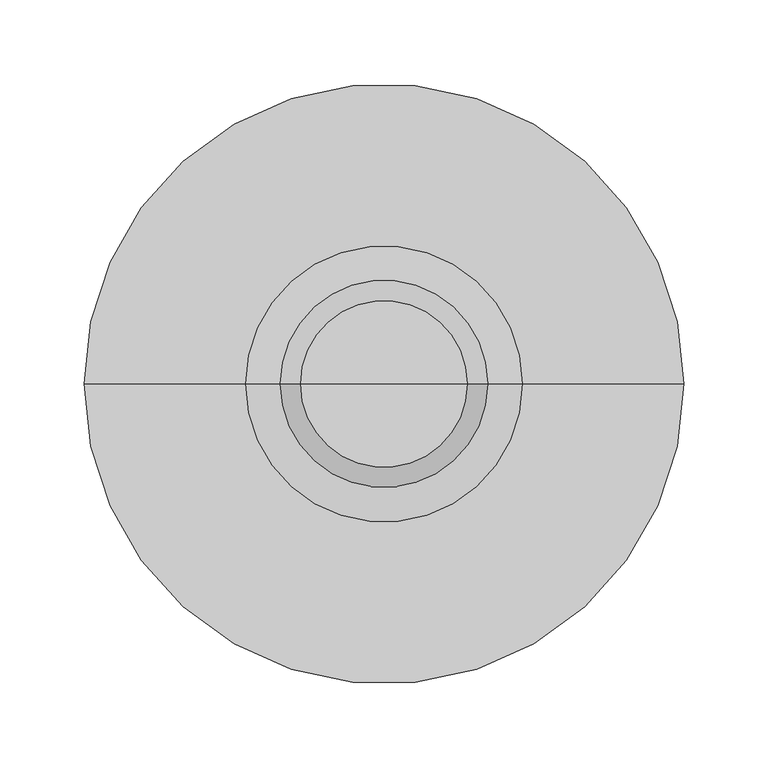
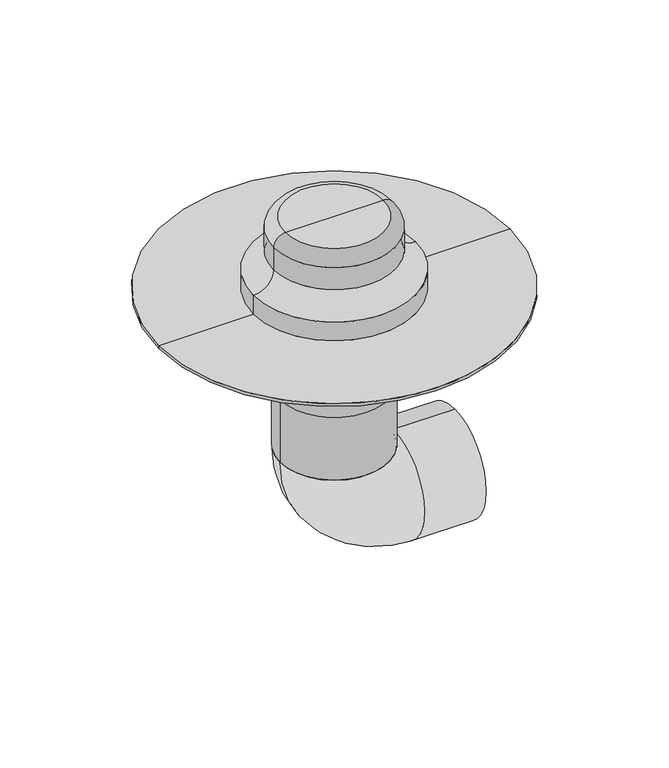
"""IFC4 building model written with IfcOpenShell, lengths in millimetres: flow terminal geometry, BIMLIB_Воронка_Кровельная_Fachmann_VMC : 110х165."""

import ifcopenshell
import ifcopenshell.guid

model = None  # the IFC model being written
_history = None  # IfcOwnerHistory: only IFC2X3 demands one
_inside = {}  # id of a spatial element -> (the spatial element, [elements in it])
_under = {}  # id of a project, library or spatial element -> (it, [spatial elements below it])
_declared = {}  # id of a project -> (the project, [libraries it declares])
_typed = {}  # id of a type object -> (the type object, [elements of that type])
_made_of = {}  # id of a material, layer set ... -> (it, [elements and type objects made of it])


def new_model(schema):
    """Start an empty IFC model of exactly this schema.

    Asked for "IFC4X3", IfcOpenShell would pick the latest addendum, in which some entities
    have other attributes; the version numbers below select the first issue.
    IFC2X3 requires an IfcOwnerHistory on every rooted entity: one is made here for all.
    """
    global model, _history
    if schema == "IFC4X3":
        model = ifcopenshell.file(schema_version=(4, 3, 0, 0))
    else:
        model = ifcopenshell.file(schema=schema)
    _inside.clear()
    _under.clear()
    _declared.clear()
    _typed.clear()
    _made_of.clear()
    _history = None
    if model.schema == "IFC2X3":
        org = make("IfcOrganization", Name="unknown")
        user = make(
            "IfcPersonAndOrganization",
            ThePerson=make("IfcPerson", FamilyName="unknown"),
            TheOrganization=org,
        )
        app = make(
            "IfcApplication",
            ApplicationDeveloper=org,
            Version="unknown",
            ApplicationFullName="unknown",
            ApplicationIdentifier="unknown",
        )
        _history = make(
            "IfcOwnerHistory",
            OwningUser=user,
            OwningApplication=app,
            ChangeAction="ADDED",
            CreationDate=0,
        )
    return model


def make(cls, **values):
    """One entity of the class cls with the attributes given. An attribute that is None is left unset."""
    return model.create_entity(
        cls, **{name: value for name, value in values.items() if value is not None}
    )


def rooted(cls, **values):
    """An entity with a GlobalId (a new one), such as an element, a storey or a relation."""
    return make(cls, GlobalId=ifcopenshell.guid.new(), OwnerHistory=_history, **values)


def si_unit(unit_type, name, prefix=None):
    """IfcSIUnit, for example si_unit("LENGTHUNIT", "METRE", prefix="MILLI")."""
    return make("IfcSIUnit", UnitType=unit_type, Prefix=prefix, Name=name)


def assignment(units):
    """IfcUnitAssignment: the units of a project."""
    return None if units is None else make("IfcUnitAssignment", Units=units)


def point(xyz):
    """IfcCartesianPoint."""
    return None if xyz is None else make("IfcCartesianPoint", Coordinates=xyz)


def direction(xyz):
    """IfcDirection."""
    return None if xyz is None else make("IfcDirection", DirectionRatios=xyz)


def frame(location, z_axis=None, x_axis=None):
    """IfcAxis2Placement3D, a coordinate frame: its origin and axes. An axis left out is left unset."""
    return make(
        "IfcAxis2Placement3D",
        Location=point(location),
        Axis=direction(z_axis),
        RefDirection=direction(x_axis),
    )


def origin():
    """The frame at (0, 0, 0) with its axes left unset."""
    return frame((0.0, 0.0, 0.0))


def origin_with_axes():
    """The frame at (0, 0, 0) with the z axis (0, 0, 1) and the x axis (1, 0, 0) written out."""
    return frame((0.0, 0.0, 0.0), z_axis=(0.0, 0.0, 1.0), x_axis=(1.0, 0.0, 0.0))


def place(relative_to, where):
    """IfcLocalPlacement: puts the frame where relative to a parent placement (None: the world)."""
    return make(
        "IfcLocalPlacement", PlacementRelTo=relative_to, RelativePlacement=where
    )


def context(
    kind, dimensions, precision=None, world=None, true_north=None, identifier=None
):
    """IfcGeometricRepresentationContext, for example the 3D "Model" context."""
    return make(
        "IfcGeometricRepresentationContext",
        ContextIdentifier=identifier,
        ContextType=kind,
        CoordinateSpaceDimension=dimensions,
        Precision=precision,
        WorldCoordinateSystem=world,
        TrueNorth=true_north,
    )


def project(units=None, contexts=None):
    """IfcProject with its units and contexts."""
    return rooted(
        "IfcProject",
        Name="project",
        RepresentationContexts=contexts,
        UnitsInContext=assignment(units),
    )


def spatial(cls, under=None, at=None, **own):
    """A site, building, storey or space (cls), placed at a placement, below another one or the project."""
    s = rooted(cls, ObjectPlacement=at, **own)
    if under is not None:
        _under.setdefault(under.id(), (under, []))[1].append(s)
    return s


def polyline(points):
    """IfcPolyline through the points."""
    return make("IfcPolyline", Points=[point(p) for p in points])


def circle_curve(where, radius):
    """IfcCircle in the frame where."""
    return make("IfcCircle", Position=where, Radius=radius)


def ellipse_curve(where, semi_axis1, semi_axis2):
    """IfcEllipse in the frame where."""
    return make(
        "IfcEllipse", Position=where, SemiAxis1=semi_axis1, SemiAxis2=semi_axis2
    )


def trimmed(basis, trim1, trim2, sense, master):
    """IfcTrimmedCurve: the piece of a basis curve between two trims."""
    return make(
        "IfcTrimmedCurve",
        BasisCurve=basis,
        Trim1=trim1,
        Trim2=trim2,
        SenseAgreement=sense,
        MasterRepresentation=master,
    )


def shape(context_of_items, identifier, shape_type, items):
    """IfcShapeRepresentation: the items that make up one representation, for example the "Body"."""
    return make(
        "IfcShapeRepresentation",
        ContextOfItems=context_of_items,
        RepresentationIdentifier=identifier,
        RepresentationType=shape_type,
        Items=items,
    )


def source(mapping_origin, context_of_items, identifier, shape_type, items):
    """IfcRepresentationMap: a shape defined once, which mapped items show again and again."""
    return make(
        "IfcRepresentationMap",
        MappingOrigin=mapping_origin,
        MappedRepresentation=shape(context_of_items, identifier, shape_type, items),
    )


def transform(
    local_origin,
    x_axis=None,
    y_axis=None,
    z_axis=None,
    scale=None,
    scale2=None,
    scale3=None,
    uniform=True,
):
    """IfcCartesianTransformationOperator3D, or its non-uniform kind. x_axis, y_axis, z_axis: its Axis1, 2, 3."""
    if uniform:
        return make(
            "IfcCartesianTransformationOperator3D",
            Axis1=direction(x_axis),
            Axis2=direction(y_axis),
            LocalOrigin=point(local_origin),
            Scale=scale,
            Axis3=direction(z_axis),
        )
    return make(
        "IfcCartesianTransformationOperator3DnonUniform",
        Axis1=direction(x_axis),
        Axis2=direction(y_axis),
        LocalOrigin=point(local_origin),
        Scale=scale,
        Axis3=direction(z_axis),
        Scale2=scale2,
        Scale3=scale3,
    )


def mapped(mapping_source, mapping_target):
    """IfcMappedItem: shows the shape of a source again, moved by a transform."""
    return make(
        "IfcMappedItem", MappingSource=mapping_source, MappingTarget=mapping_target
    )


def made_of(thing, what):
    """Note that an element or type object is made of a material, layer set ...; save() writes the relation."""
    if what is not None:
        _made_of.setdefault(what.id(), (what, []))[1].append(thing)
    return thing


def element(
    cls,
    number,
    at=None,
    inside=None,
    cuts=None,
    type_object=None,
    material=None,
    context=None,
    identifier="Body",
    shape_type=None,
    held_by="IfcProductDefinitionShape",
    body=None,
    shapes=None,
    **own,
):
    """One element of the class cls, such as IfcWall. Its Tag is "e" and its number.

    at: its placement. inside: the storey or other place that contains it. cuts: it is an
    opening in that element (IfcRelVoidsElement). A single representation is given by context,
    identifier, shape_type and body (its items); several are given by shapes. held_by: the class
    of the entity that holds the representations. save() writes the other relations.
    """
    e = rooted(cls, Tag="e%d" % number, ObjectPlacement=at, **own)
    if body is not None:
        shapes = [shape(context, identifier, shape_type, body)]
    if shapes is not None:
        e.Representation = make(held_by, Representations=shapes)
    if inside is not None:
        _inside.setdefault(inside.id(), (inside, []))[1].append(e)
    if cuts is not None:
        rooted(
            "IfcRelVoidsElement", RelatingBuildingElement=cuts, RelatedOpeningElement=e
        )
    if type_object is not None:
        _typed.setdefault(type_object.id(), (type_object, []))[1].append(e)
    return made_of(e, material)


def aggregate(whole, parts):
    """IfcRelAggregates: a whole, such as a stair, and the parts it consists of."""
    return rooted("IfcRelAggregates", RelatingObject=whole, RelatedObjects=parts)


def save(model, path):
    """Write the relations noted so far, then the file.

    IfcRelAggregates (storeys below a building ...), IfcRelContainedInSpatialStructure (elements
    in a storey), IfcRelDefinesByType, IfcRelAssociatesMaterial and IfcRelDeclares: one each for
    every whole, place, type object, material and project.
    """
    for whole, parts in _under.values():
        aggregate(whole, parts)
    for where, things in _inside.values():
        rooted(
            "IfcRelContainedInSpatialStructure",
            RelatedElements=things,
            RelatingStructure=where,
        )
    for kind, things in _typed.values():
        rooted("IfcRelDefinesByType", RelatedObjects=things, RelatingType=kind)
    for what, things in _made_of.values():
        rooted("IfcRelAssociatesMaterial", RelatedObjects=things, RelatingMaterial=what)
    for by, libraries in _declared.values():
        rooted("IfcRelDeclares", RelatingContext=by, RelatedDefinitions=libraries)
    model.write(path)


def plane_surface(at):
    """IfcPlane: the flat surface through the origin of the frame at, square to its z axis."""
    return make("IfcPlane", Position=at)


def cylinder_surface(at, radius):
    """IfcCylindricalSurface: all points at the distance radius from the z axis of the frame at."""
    return make("IfcCylindricalSurface", Position=at, Radius=radius)


def revolved_surface(curve, axis_point, axis_direction):
    """IfcSurfaceOfRevolution: the curve turned about the line through axis_point along axis_direction."""
    return make(
        "IfcSurfaceOfRevolution",
        SweptCurve=make("IfcArbitraryOpenProfileDef", ProfileType="CURVE", Curve=curve),
        AxisPosition=make("IfcAxis1Placement", Location=point(axis_point), Axis=direction(axis_direction)),
    )


def advanced_brep(points, edges, surfaces, faces):
    """IfcAdvancedBrep: a solid bounded by faces that lie on surfaces and meet in shared edges.

    An edge is (start, end): straight between two places in points (the first is 0);
    or (start, end, curve); or (start, end, curve, False) where it runs against its curve.
    A face is (place in surfaces, loops), or (place, loops, False) where it looks against
    its surface's normal. A loop lists edges by number (the first is 1), with a minus sign
    where the edge is run from its end to its start. The first loop is the outer one.
    """
    corners = [point(p) for p in points]
    vertices = [make("IfcVertexPoint", VertexGeometry=c) for c in corners]
    made = []
    for start, end, *more in edges:
        made.append(
            make(
                "IfcEdgeCurve",
                EdgeStart=vertices[start],
                EdgeEnd=vertices[end],
                EdgeGeometry=more[0] if more else make("IfcPolyline", Points=[corners[start], corners[end]]),
                SameSense=more[1] if len(more) > 1 else True,
            )
        )
    hull = []
    for where, loops, *sense in faces:
        bounds = []
        for j, loop in enumerate(loops):
            ring = [make("IfcOrientedEdge", EdgeElement=made[abs(k) - 1], Orientation=k > 0) for k in loop]
            bounds.append(
                make(
                    "IfcFaceOuterBound" if j == 0 else "IfcFaceBound",
                    Bound=make("IfcEdgeLoop", EdgeList=ring),
                    Orientation=True,
                )
            )
        hull.append(make("IfcAdvancedFace", Bounds=bounds, FaceSurface=surfaces[where], SameSense=sense[0] if sense else True))
    return make("IfcAdvancedBrep", Outer=make("IfcClosedShell", CfsFaces=hull))


def flow_terminal_ac1c9df8(model_context):
    return source(origin(), model_context, "Body", "AdvancedBrep", [
        advanced_brep(
        [(122.0, 0.0, -170.0), (122.0, 0.0, -280.0), (60.0, 0.0, -170.0), (60.0, 0.0, -280.0), (55.0, 0.0, -165.0), (-55.0, 0.0, -165.0)],
        [
            (0, 1, circle_curve(frame((122.0, 0.0, -225.0), z_axis=(1.0, 0.0, 0.0), x_axis=(0.0, 0.0, -1.0)), 55.0)),
            (1, 0, circle_curve(frame((122.0, 0.0, -225.0), z_axis=(1.0, 0.0, 0.0), x_axis=(0.0, 0.0, -1.0)), 55.0)),
            (0, 2),
            (2, 3, circle_curve(frame((60.0, 0.0, -225.0), z_axis=(1.0, 0.0, 0.0), x_axis=(0.0, 0.0, -1.0)), 55.0)),
            (3, 1),
            (3, 2, circle_curve(frame((60.0, 0.0, -225.0), z_axis=(1.0, 0.0, 0.0), x_axis=(0.0, 0.0, -1.0)), 55.0)),
            (4, 5, circle_curve(frame((0.0, 0.0, -165.0), z_axis=(0.0, 0.0, 1.0), x_axis=(-1.0, 0.0, 0.0)), 55.0)),
            (5, 4, circle_curve(frame((0.0, 0.0, -165.0), z_axis=(0.0, 0.0, 1.0), x_axis=(-1.0, 0.0, 0.0)), 55.0)),
            (5, 3, circle_curve(frame((60.0, 0.0, -165.0), z_axis=(0.0, -1.0, 0.0), x_axis=(0.0, 0.0, -1.0)), 115.0)),
            (2, 4, circle_curve(frame((60.0, 0.0, -165.0), z_axis=(0.0, 1.0, 0.0), x_axis=(0.0, 0.0, -1.0)), 5.0)),
        ],
        [
            plane_surface(frame((122.0, 0.0, -225.0), z_axis=(1.0, 0.0, 0.0), x_axis=(0.0, -1.0, 0.0))),
            cylinder_surface(frame((122.0, 0.0, -225.0), z_axis=(1.0, 0.0, 0.0), x_axis=(0.0, 0.0, -1.0)), 55.0),
            plane_surface(frame((0.0, 0.0, -165.0), z_axis=(0.0, 0.0, 1.0), x_axis=(0.0, -1.0, 0.0))),
            revolved_surface(trimmed(ellipse_curve(frame((60.0, 0.0, -225.0), z_axis=(1.0, 0.0, 0.0), x_axis=(0.0, 0.0, -1.0)), 55.0, 55.0), [point((60.0, 0.0, -170.0))], [point((60.0, 0.0, -280.0))], True, "CARTESIAN"), (60.0, 0.0, -165.0), (0.0, 1.0, 0.0)),
            revolved_surface(trimmed(ellipse_curve(frame((60.0, 0.0, -225.0), z_axis=(1.0, 0.0, 0.0), x_axis=(0.0, 0.0, -1.0)), 55.0, 55.0), [point((60.0, 0.0, -280.0))], [point((60.0, 0.0, -170.0))], True, "CARTESIAN"), (60.0, 0.0, -165.0), (0.0, 1.0, 0.0)),
        ],
        [
            (0, [[1, 2]]),
            (1, [[-1, 3, 4, 5]]),
            (1, [[-2, -5, 6, -3]]),
            (2, [[7, 8]]),
            (3, [[9, -4, 10, -8]]),
            (4, [[-10, -6, -9, -7]]),
        ],
    ),
        advanced_brep(
        [(55.0, 0.0, -165.0), (-55.0, 0.0, -165.0), (-55.0, 0.0, -98.0), (55.0, 0.0, -98.0), (-113.0, 0.0, -9.0), (113.0, 0.0, -9.0), (113.0, 0.0, -32.0), (-113.0, 0.0, -32.0), (0.0, 0.0, 0.0), (138.0, 0.0, 0.0), (-138.0, 0.0, 0.0), (-90.0, 0.0, -32.0), (90.0, 0.0, -32.0), (90.0, 0.0, -40.0), (-90.0, 0.0, -40.0)],
        [
            (0, 1, circle_curve(frame((0.0, 0.0, -165.0), z_axis=(0.0, 0.0, -1.0), x_axis=(-1.0, 0.0, 0.0)), 55.0)),
            (1, 0, circle_curve(frame((0.0, 0.0, -165.0), z_axis=(0.0, 0.0, -1.0), x_axis=(-1.0, 0.0, 0.0)), 55.0)),
            (1, 2),
            (2, 3, circle_curve(frame((0.0, 0.0, -98.0), z_axis=(0.0, 0.0, -1.0), x_axis=(-1.0, 0.0, 0.0)), 55.0)),
            (3, 0),
            (3, 2, circle_curve(frame((0.0, 0.0, -98.0), z_axis=(0.0, 0.0, -1.0), x_axis=(-1.0, 0.0, 0.0)), 55.0)),
            (4, 5, circle_curve(frame((0.0, 0.0, -9.0), z_axis=(0.0, 0.0, -1.0), x_axis=(1.0, 0.0, 0.0)), 113.0)),
            (5, 6),
            (6, 7, circle_curve(frame((0.0, 0.0, -32.0), z_axis=(0.0, 0.0, 1.0), x_axis=(1.0, 0.0, 0.0)), 113.0)),
            (7, 4),
            (5, 4, circle_curve(frame((0.0, 0.0, -9.0), z_axis=(0.0, 0.0, -1.0), x_axis=(1.0, 0.0, 0.0)), 113.0)),
            (7, 6, circle_curve(frame((0.0, 0.0, -32.0), z_axis=(0.0, 0.0, 1.0), x_axis=(1.0, 0.0, 0.0)), 113.0)),
            (8, 9),
            (9, 10, circle_curve(origin_with_axes(), 138.0)),
            (10, 8),
            (10, 9, circle_curve(origin_with_axes(), 138.0)),
            (4, 10),
            (9, 5),
            (11, 12, circle_curve(frame((0.0, 0.0, -32.0), z_axis=(0.0, 0.0, -1.0), x_axis=(1.0, 0.0, 0.0)), 90.0)),
            (12, 13),
            (13, 14, circle_curve(frame((0.0, 0.0, -40.0), z_axis=(0.0, 0.0, 1.0), x_axis=(1.0, 0.0, 0.0)), 90.0)),
            (14, 11),
            (12, 11, circle_curve(frame((0.0, 0.0, -32.0), z_axis=(0.0, 0.0, -1.0), x_axis=(1.0, 0.0, 0.0)), 90.0)),
            (14, 13, circle_curve(frame((0.0, 0.0, -40.0), z_axis=(0.0, 0.0, 1.0), x_axis=(1.0, 0.0, 0.0)), 90.0)),
            (6, 12),
            (11, 7),
            (13, 3),
            (2, 14),
        ],
        [
            plane_surface(frame((-55.0, 0.0, -165.0), z_axis=(0.0, 0.0, -1.0), x_axis=(0.0, 1.0, 0.0))),
            cylinder_surface(frame((0.0, 0.0, -165.0), z_axis=(0.0, 0.0, 1.0), x_axis=(-1.0, 0.0, 0.0)), 55.0),
            cylinder_surface(frame((0.0, 0.0, 159.0), z_axis=(0.0, 0.0, 1.0), x_axis=(1.0, 0.0, 0.0)), 113.0),
            plane_surface(origin_with_axes()),
            revolved_surface(polyline([(113.0, 0.0, -9.0), (138.0, 0.0, 0.0)]), (0.0, 0.0, 159.0), (0.0, 0.0, 1.0)),
            cylinder_surface(frame((0.0, 0.0, 159.0), z_axis=(0.0, 0.0, 1.0), x_axis=(1.0, 0.0, 0.0)), 90.0),
            plane_surface(frame((0.0, 0.0, -32.0), z_axis=(0.0, 0.0, -1.0), x_axis=(1.0, 0.0, 0.0))),
            revolved_surface(polyline([(55.0, 0.0, -98.0), (90.0, 0.0, -40.0)]), (0.0, 0.0, 159.0), (0.0, 0.0, 1.0)),
        ],
        [
            (0, [[1, 2]]),
            (1, [[-2, 3, 4, 5]]),
            (1, [[-1, -5, 6, -3]]),
            (2, [[7, 8, 9, 10]]),
            (2, [[-8, 11, -10, 12]]),
            (3, [[13, 14, 15]]),
            (3, [[-13, -15, 16]]),
            (4, [[-7, 17, -14, 18]]),
            (4, [[-11, -18, -16, -17]]),
            (5, [[19, 20, 21, 22]]),
            (5, [[-20, 23, -22, 24]]),
            (6, [[-9, 25, -19, 26]]),
            (6, [[-12, -26, -23, -25]]),
            (7, [[-21, 27, -4, 28]]),
            (7, [[-24, -28, -6, -27]]),
        ],
    ),
        advanced_brep(
        [(0.0, 0.0, 79.0), (49.5, 0.0, 79.0), (-49.5, 0.0, 79.0), (-178.0, 0.0, 0.0), (178.0, 0.0, 0.0), (0.0, 0.0, 0.0), (-178.0, 0.0, 3.0), (178.0, 0.0, 3.0), (-82.0, 0.0, 3.0), (82.0, 0.0, 3.0), (-61.5, 0.0, 67.0), (61.5, 0.0, 67.0), (61.5, 0.0, 43.5), (-61.5, 0.0, 43.5), (-82.0, 0.0, 23.0), (82.0, 0.0, 23.0)],
        [
            (0, 1),
            (1, 2, circle_curve(frame((0.0, 0.0, 79.0), z_axis=(0.0, 0.0, 1.0), x_axis=(1.0, 0.0, 0.0)), 49.5)),
            (2, 0),
            (2, 1, circle_curve(frame((0.0, 0.0, 79.0), z_axis=(0.0, 0.0, 1.0), x_axis=(1.0, 0.0, 0.0)), 49.5)),
            (3, 4, circle_curve(frame((0.0, 0.0, 0.0), z_axis=(0.0, 0.0, -1.0), x_axis=(1.0, 0.0, 0.0)), 178.0)),
            (4, 5),
            (5, 3),
            (4, 3, circle_curve(frame((0.0, 0.0, 0.0), z_axis=(0.0, 0.0, -1.0), x_axis=(1.0, 0.0, 0.0)), 178.0)),
            (6, 7, circle_curve(frame((0.0, 0.0, 3.0), z_axis=(0.0, 0.0, -1.0), x_axis=(1.0, 0.0, 0.0)), 178.0)),
            (7, 4),
            (3, 6),
            (7, 6, circle_curve(frame((0.0, 0.0, 3.0), z_axis=(0.0, 0.0, -1.0), x_axis=(1.0, 0.0, 0.0)), 178.0)),
            (8, 9, circle_curve(frame((0.0, 0.0, 3.0), z_axis=(0.0, 0.0, -1.0), x_axis=(1.0, 0.0, 0.0)), 82.0)),
            (9, 7),
            (6, 8),
            (9, 8, circle_curve(frame((0.0, 0.0, 3.0), z_axis=(0.0, 0.0, -1.0), x_axis=(1.0, 0.0, 0.0)), 82.0)),
            (10, 11, circle_curve(frame((0.0, 0.0, 67.0), z_axis=(0.0, 0.0, -1.0), x_axis=(1.0, 0.0, 0.0)), 61.5)),
            (11, 12),
            (12, 13, circle_curve(frame((0.0, 0.0, 43.5), z_axis=(0.0, 0.0, 1.0), x_axis=(1.0, 0.0, 0.0)), 61.5)),
            (13, 10),
            (11, 10, circle_curve(frame((0.0, 0.0, 67.0), z_axis=(0.0, 0.0, -1.0), x_axis=(1.0, 0.0, 0.0)), 61.5)),
            (13, 12, circle_curve(frame((0.0, 0.0, 43.5), z_axis=(0.0, 0.0, 1.0), x_axis=(1.0, 0.0, 0.0)), 61.5)),
            (1, 11, circle_curve(frame((49.5, 0.0, 67.0), z_axis=(0.0, 1.0, 0.0), x_axis=(1.0, 0.0, 0.0)), 12.0)),
            (10, 2, circle_curve(frame((-49.5, 0.0, 67.0), z_axis=(0.0, 1.0, 0.0), x_axis=(-1.0, 0.0, 0.0)), 12.0)),
            (14, 15, circle_curve(frame((0.0, 0.0, 23.0), z_axis=(0.0, 0.0, -1.0), x_axis=(1.0, 0.0, 0.0)), 82.0)),
            (15, 9),
            (8, 14),
            (15, 14, circle_curve(frame((0.0, 0.0, 23.0), z_axis=(0.0, 0.0, -1.0), x_axis=(1.0, 0.0, 0.0)), 82.0)),
            (12, 15, circle_curve(frame((82.0, 0.0, 43.5), z_axis=(0.0, -1.0, 0.0), x_axis=(1.0, 0.0, 0.0)), 20.5)),
            (14, 13, circle_curve(frame((-82.0, 0.0, 43.5), z_axis=(0.0, -1.0, 0.0), x_axis=(-1.0, 0.0, 0.0)), 20.5)),
        ],
        [
            plane_surface(frame((0.0, 0.0, 79.0), z_axis=(0.0, 0.0, 1.0), x_axis=(1.0, 0.0, 0.0))),
            plane_surface(frame((0.0, 0.0, 0.0), z_axis=(0.0, 0.0, -1.0), x_axis=(1.0, 0.0, 0.0))),
            cylinder_surface(frame((0.0, 0.0, 229.0), z_axis=(0.0, 0.0, 1.0), x_axis=(1.0, 0.0, 0.0)), 178.0),
            plane_surface(frame((0.0, 0.0, 3.0), z_axis=(0.0, 0.0, 1.0), x_axis=(1.0, 0.0, 0.0))),
            cylinder_surface(frame((0.0, 0.0, 229.0), z_axis=(0.0, 0.0, 1.0), x_axis=(1.0, 0.0, 0.0)), 61.5),
            revolved_surface(trimmed(ellipse_curve(frame((49.5, 0.0, 67.0), z_axis=(0.0, -1.0, 0.0), x_axis=(1.0, 0.0, 0.0)), 12.0, 12.0), [point((61.5, 0.0, 67.0))], [point((49.5, 0.0, 79.0))], True, "CARTESIAN"), (0.0, 0.0, 229.0), (0.0, 0.0, 1.0)),
            cylinder_surface(frame((0.0, 0.0, 229.0), z_axis=(0.0, 0.0, 1.0), x_axis=(1.0, 0.0, 0.0)), 82.0),
            revolved_surface(trimmed(ellipse_curve(frame((82.0, 0.0, 43.5), z_axis=(0.0, 1.0, 0.0), x_axis=(1.0, 0.0, 0.0)), 20.5, 20.5), [point((82.0, 0.0, 23.0))], [point((61.5, 0.0, 43.5))], True, "CARTESIAN"), (0.0, 0.0, 229.0), (0.0, 0.0, 1.0)),
        ],
        [
            (0, [[1, 2, 3]]),
            (0, [[-3, 4, -1]]),
            (1, [[5, 6, 7]]),
            (1, [[8, -7, -6]]),
            (2, [[9, 10, -5, 11]]),
            (2, [[12, -11, -8, -10]]),
            (3, [[13, 14, -9, 15]]),
            (3, [[16, -15, -12, -14]]),
            (4, [[17, 18, 19, 20]]),
            (4, [[21, -20, 22, -18]]),
            (5, [[-2, 23, -17, 24]]),
            (5, [[-4, -24, -21, -23]]),
            (6, [[25, 26, -13, 27]]),
            (6, [[28, -27, -16, -26]]),
            (7, [[-19, 29, -25, 30]]),
            (7, [[-22, -30, -28, -29]]),
        ],
    ),
    ])


if __name__ == "__main__":
    model = new_model("IFC4")
    model_context = context("Model", 3, world=origin())
    ifc_project = project(units=[si_unit("LENGTHUNIT", "METRE", prefix="MILLI")], contexts=[model_context])
    site = spatial("IfcSite", under=ifc_project)
    building = spatial("IfcBuilding", under=site)
    placement = place(None, origin())
    flow_terminal_shape = flow_terminal_ac1c9df8(model_context)
    element("IfcFlowTerminal", 1, ObjectType="BIMLIB_Воронка_Кровельная_Fachmann_VMC : 110х165", at=placement, inside=building, context=model_context, shape_type="MappedRepresentation", body=[
        mapped(flow_terminal_shape, transform((0.0, 0.0, 0.0), x_axis=(1.0, 0.0, 0.0), y_axis=(0.0, 1.0, 0.0), z_axis=(0.0, 0.0, 1.0))),
    ])
    save(model, "model.ifc")
